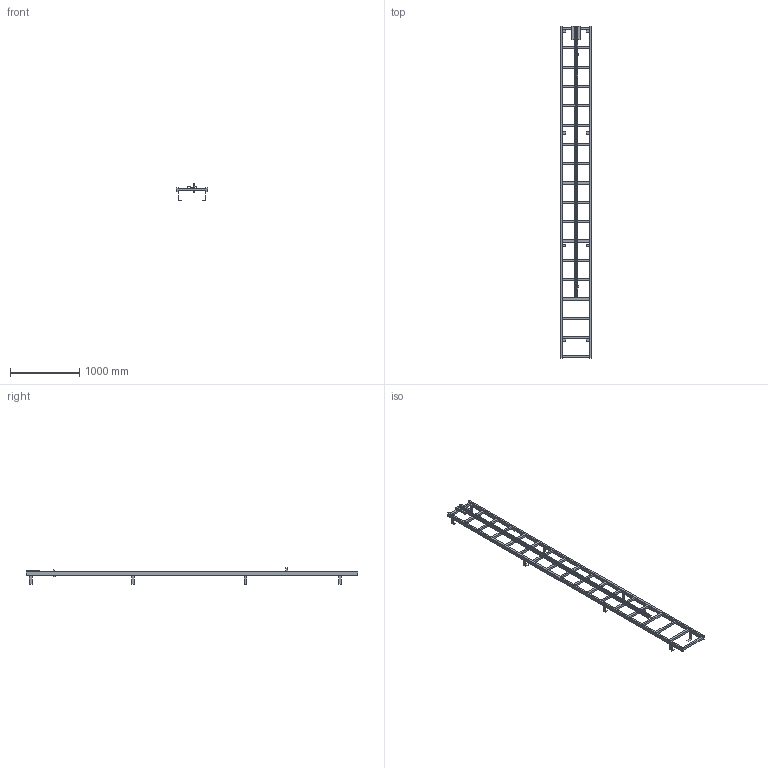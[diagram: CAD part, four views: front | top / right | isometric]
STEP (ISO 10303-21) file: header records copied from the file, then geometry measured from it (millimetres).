
FILE_DESCRIPTION((''),'2;1');
FILE_NAME('52330152','2024-12-05T08:45:03',('wep'),('HUBER SE'),'CREO PARAMETRIC BY PTC INC, 2022162','CREO PARAMETRIC BY PTC INC, 2022162','');
FILE_SCHEMA(('AUTOMOTIVE_DESIGN { 1 0 10303 214 1 1 1 1 }'));
Length unit declared in the file: millimetre
Products named in the file (1): 52330152
Bounding box: 450 x 4810 x 239 mm (x, y, z)
Volume: 20887328 mm3; surface area: 3611407.3 mm2
Topology: 2 solids, 2 shells, 308 faces, 894 edges, 586 vertices
Faces by surface type: plane 308
Entity records: 10653 total; most frequent: CARTESIAN_POINT 1790, ORIENTED_EDGE 1788, DIRECTION 1510, VECTOR 894, LINE 894, EDGE_CURVE 894, VERTEX_POINT 586, EDGE_LOOP 398
